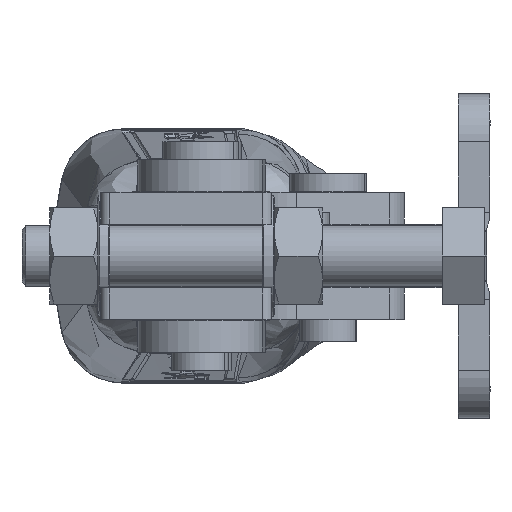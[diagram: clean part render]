
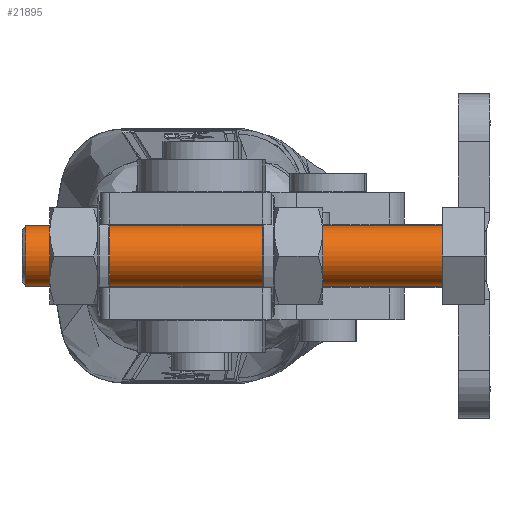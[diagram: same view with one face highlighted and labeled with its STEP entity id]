
A CAD part, left-side view. The second image highlights one B-rep face of the part: STEP entity #21895.
In plain terms, the highlighted cylindrical face has radius 2.5 mm (diameter 5 mm), a partial arc.
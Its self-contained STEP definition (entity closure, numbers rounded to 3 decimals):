
#1455 = CIRCLE ( 'NONE', #6800, 2.5 ) ;
#1555 = LINE ( 'NONE', #17701, #5816 ) ;
#3814 = CIRCLE ( 'NONE', #24547, 2.5 ) ;
#4441 = ORIENTED_EDGE ( 'NONE', *, *, #13049, .T. ) ;
#5205 = LINE ( 'NONE', #15774, #11985 ) ;
#5816 = VECTOR ( 'NONE', #14934, 1000. ) ;
#6265 = DIRECTION ( 'NONE',  ( 0., -1., 0. ) ) ;
#6780 = DIRECTION ( 'NONE',  ( 0., 0., -1. ) ) ;
#6800 = AXIS2_PLACEMENT_3D ( 'NONE', #23111, #6265, #14790 ) ;
#7032 = VERTEX_POINT ( 'NONE', #15923 ) ;
#7973 = EDGE_LOOP ( 'NONE', ( #17965, #4441, #32084, #25743 ) ) ;
#7995 = DIRECTION ( 'NONE',  ( 0., 1., 0. ) ) ;
#8641 = CARTESIAN_POINT ( 'NONE',  ( 0., -34.7, -2.5 ) ) ;
#9147 = EDGE_CURVE ( 'NONE', #10152, #36533, #5205, .T. ) ;
#9541 = DIRECTION ( 'NONE',  ( 0., 1., 0. ) ) ;
#10152 = VERTEX_POINT ( 'NONE', #33918 ) ;
#11985 = VECTOR ( 'NONE', #7995, 1000. ) ;
#12591 = EDGE_CURVE ( 'NONE', #36533, #7032, #1455, .T. ) ;
#13049 = EDGE_CURVE ( 'NONE', #36141, #10152, #3814, .T. ) ;
#14790 = DIRECTION ( 'NONE',  ( 0., 0., 1. ) ) ;
#14841 = FACE_OUTER_BOUND ( 'NONE', #7973, .T. ) ;
#14934 = DIRECTION ( 'NONE',  ( 0., 1., 0. ) ) ;
#15774 = CARTESIAN_POINT ( 'NONE',  ( 0., -35., 2.5 ) ) ;
#15923 = CARTESIAN_POINT ( 'NONE',  ( 0., 0., -2.5 ) ) ;
#17701 = CARTESIAN_POINT ( 'NONE',  ( 0., -35., -2.5 ) ) ;
#17965 = ORIENTED_EDGE ( 'NONE', *, *, #36416, .F. ) ;
#21525 = AXIS2_PLACEMENT_3D ( 'NONE', #31694, #23344, #34654 ) ;
#21895 = ADVANCED_FACE ( 'NONE', ( #14841 ), #23164, .T. ) ;
#23111 = CARTESIAN_POINT ( 'NONE',  ( 0., 0., 0. ) ) ;
#23164 = CYLINDRICAL_SURFACE ( 'NONE', #21525, 2.5 ) ;
#23344 = DIRECTION ( 'NONE',  ( 0., 1., 0. ) ) ;
#24547 = AXIS2_PLACEMENT_3D ( 'NONE', #34917, #9541, #6780 ) ;
#25743 = ORIENTED_EDGE ( 'NONE', *, *, #12591, .T. ) ;
#27132 = CARTESIAN_POINT ( 'NONE',  ( 0., 0., 2.5 ) ) ;
#31694 = CARTESIAN_POINT ( 'NONE',  ( 0., -35., 0. ) ) ;
#32084 = ORIENTED_EDGE ( 'NONE', *, *, #9147, .T. ) ;
#33918 = CARTESIAN_POINT ( 'NONE',  ( 0., -34.7, 2.5 ) ) ;
#34654 = DIRECTION ( 'NONE',  ( 0., 0., 1. ) ) ;
#34917 = CARTESIAN_POINT ( 'NONE',  ( 0., -34.7, 0. ) ) ;
#36141 = VERTEX_POINT ( 'NONE', #8641 ) ;
#36416 = EDGE_CURVE ( 'NONE', #36141, #7032, #1555, .T. ) ;
#36533 = VERTEX_POINT ( 'NONE', #27132 ) ;
